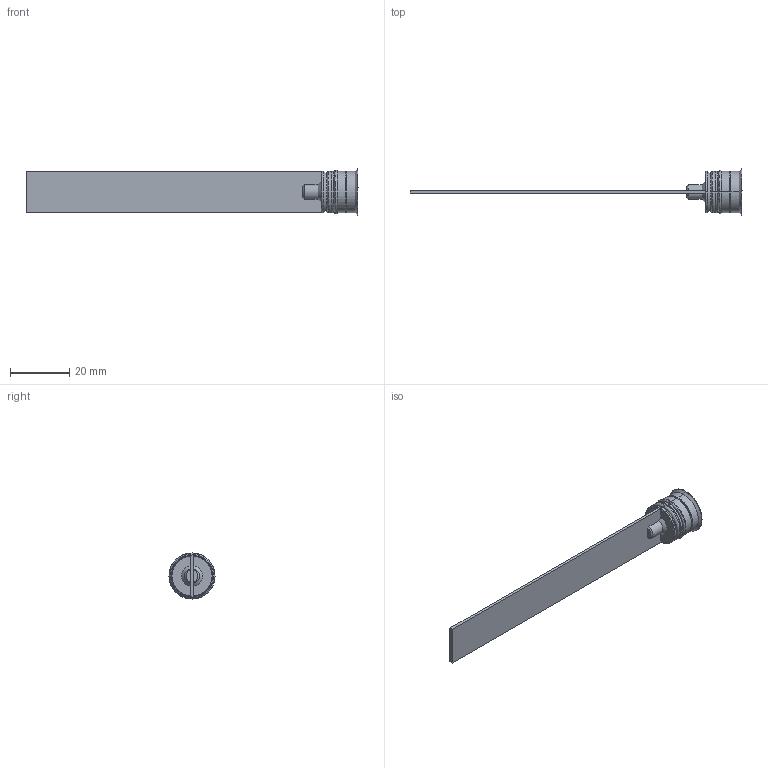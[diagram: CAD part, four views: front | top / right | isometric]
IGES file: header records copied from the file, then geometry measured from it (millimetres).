
Start section: START RECORD GO HERE.
Global section: file name: RL-14Fx100.igs; native system: DASSAULT SYSTEMES CATIA V5 R20 - www.3ds.com; preprocessor: CATIA Version 5 Release 20 ; author: Utente; organization: NB04-ASUS; date: 20210303.200643; units: millimetre
Bounding box: 112.5 x 15.6 x 15.6 mm (x, y, z)
Surface area: 4285.9 mm2 (no closed solid volume)
Topology: 0 solids, 0 shells, 73 faces, 400 edges, 400 vertices
Faces by surface type: revolution 44, plane 29
